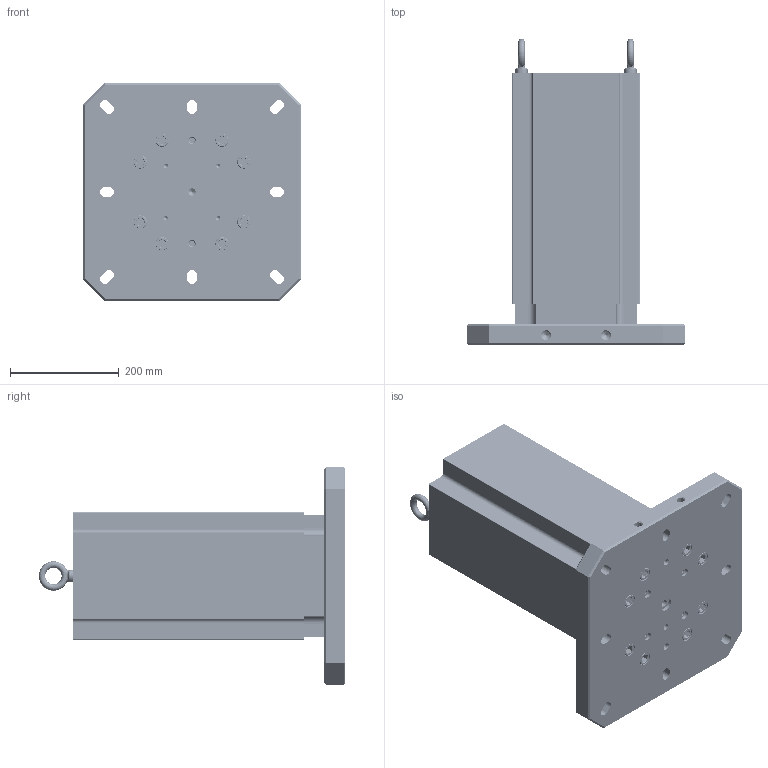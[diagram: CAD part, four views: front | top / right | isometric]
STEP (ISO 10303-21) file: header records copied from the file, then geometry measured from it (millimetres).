
FILE_DESCRIPTION (( 'STEP AP214' ), '1' );
FILE_NAME ('MTA-4004U-500.STEP', '2025-06-24T04:54:58', ( '' ), ( '' ), 'SwSTEP 2.0', 'SolidWorks 2024', '' );
FILE_SCHEMA (( 'AUTOMOTIVE_DESIGN' ));
Length unit declared in the file: millimetre
Products named in the file (8): 156x2.OR  -  O-RING, 156mm ID X 2mm THK, BUNA-N, 70A; HW.76452_dev_91290A835; RL96-4004BUA; MTA-4004U-500; MT-4462A_MT-4600A; M12X24MM.EB (McM 3040T15)_3040T15; RL96-14TC; HW.76172
Assembly tree (18 placements, depth 2):
  MTA-4004U-500
    RL96-4004BUA
    MT-4462A_MT-4600A
    M12X24MM.EB (McM 3040T15)_3040T15  x2
    156x2.OR  -  O-RING, 156mm ID X 2mm THK, BUNA-N, 70A
    HW.76452_dev_91290A835  x8
    RL96-14TC
    HW.76172  x4
Bounding box: 400 x 562.9 x 400 mm (x, y, z)
Volume: 20912147.4 mm3; surface area: 1276532.9 mm2
Topology: 18 solids, 18 shells, 2062 faces, 5522 edges, 3522 vertices
Faces by surface type: cylinder 1388, plane 318, cone 284, bspline 42, torus 30
Entity records: 33382 total; most frequent: CARTESIAN_POINT 13908, ORIENTED_EDGE 4162, DIRECTION 3945, EDGE_CURVE 2081, AXIS2_PLACEMENT_3D 1482, VERTEX_POINT 1327, VECTOR 981, LINE 981
